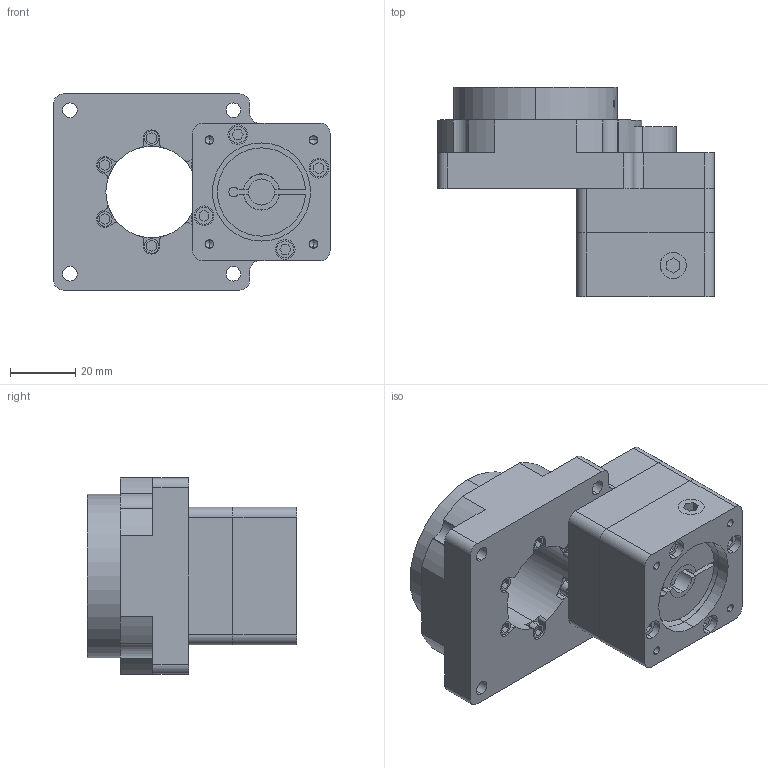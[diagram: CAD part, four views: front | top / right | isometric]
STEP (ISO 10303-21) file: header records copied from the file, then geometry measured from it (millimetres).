
FILE_DESCRIPTION (( 'STEP AP214' ), '1' );
FILE_NAME ('马拉力中空旋转平台MAK60-(100-200W伺服接口.STEP', '2024-05-09T11:03:16', ( '' ), ( '' ), 'SwSTEP 2.0', 'SolidWorks 2010', '' );
FILE_SCHEMA (( 'AUTOMOTIVE_DESIGN' ));
Length unit declared in the file: millimetre
Products named in the file (1): 马拉力中空旋转平台MAK60-(100-200W伺服接口
Bounding box: 84.7 x 64 x 60 mm (x, y, z)
Volume: 129289.7 mm3; surface area: 37865.3 mm2
Topology: 3 solids, 9 shells, 487 faces, 1252 edges, 808 vertices
Faces by surface type: plane 183, cylinder 181, bspline 87, cone 36
Entity records: 20203 total; most frequent: CARTESIAN_POINT 7633, ORIENTED_EDGE 2432, DIRECTION 2222, EDGE_CURVE 1216, VERTEX_POINT 808, AXIS2_PLACEMENT_3D 787, VECTOR 648, LINE 648
